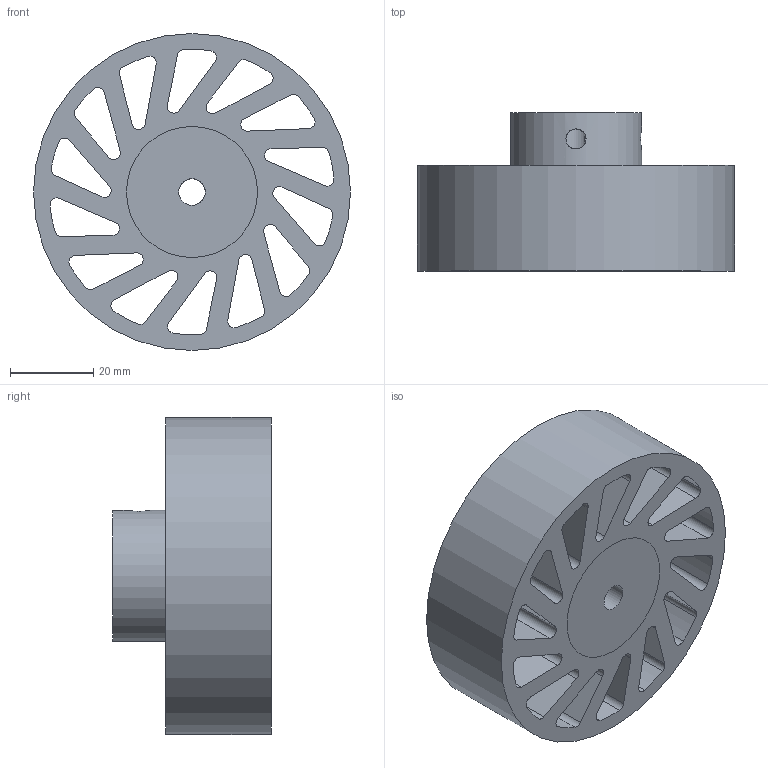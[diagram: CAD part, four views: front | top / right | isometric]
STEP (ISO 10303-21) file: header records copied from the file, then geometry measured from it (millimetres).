
FILE_DESCRIPTION(/* description */ (''),/* implementation_level */ '2;1');
FILE_NAME(/* name */ 'NCW-640-DUR-CLR.stp',/* time_stamp */ '2023-01-30T16:56:44-06:00',/* author */ ('AG'),/* organization */ ('Meridian Laboratory'),/* preprocessor_version */ 'ST-DEVELOPER v18.1',/* originating_system */ 'Autodesk Inventor 2022',/* authorisation */ '');
FILE_SCHEMA (('AUTOMOTIVE_DESIGN { 1 0 10303 214 3 1 1 }'));
Length unit declared in the file: inch
Products named in the file (1): NCW-640-DUR-CLR
Bounding box: 76.2 x 38.1 x 76.2 mm (x, y, z)
Volume: 88714 mm3; surface area: 35092.9 mm2
Topology: 2 solids, 2 shells, 94 faces, 277 edges, 186 vertices
Faces by surface type: cylinder 62, plane 32
Full cylindrical faces by diameter (mm): 4.826 x2, 6.363 x1, 31.496 x2, 76.2 x1
Entity records: 3548 total; most frequent: CARTESIAN_POINT 707, DIRECTION 580, ORIENTED_EDGE 554, EDGE_CURVE 277, AXIS2_PLACEMENT_3D 217, VERTEX_POINT 186, LINE 146, VECTOR 146
